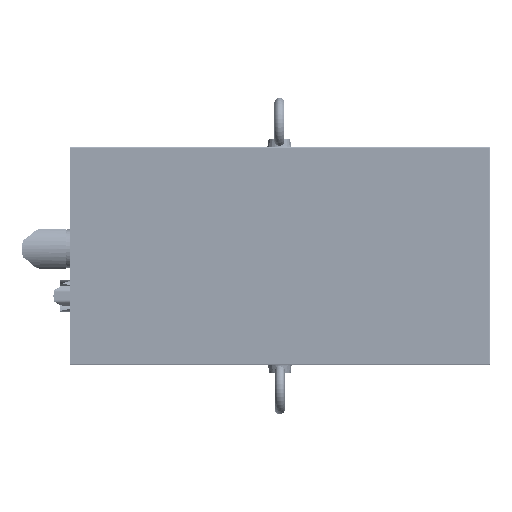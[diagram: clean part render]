
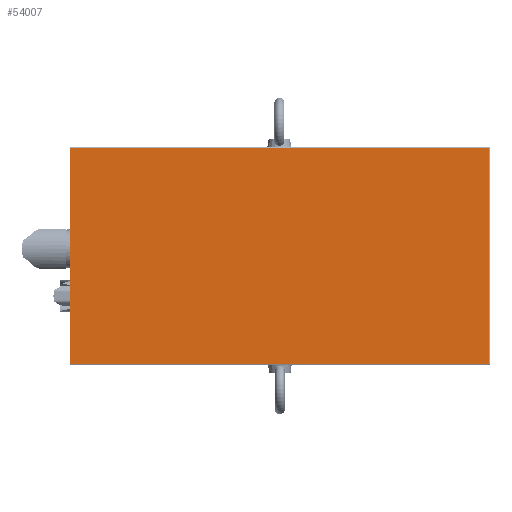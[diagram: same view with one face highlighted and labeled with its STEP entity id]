
A CAD part, top view. The second image highlights one B-rep face of the part: STEP entity #54007.
In plain terms, the highlighted planar face has unit normal (0, 0, 1).
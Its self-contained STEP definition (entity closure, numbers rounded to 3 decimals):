
#53968=CARTESIAN_POINT('',(-72.5,65.,568.));
#53969=DIRECTION('',(0.,1.,0.));
#53970=DIRECTION('',(0.,0.,-1.));
#53971=AXIS2_PLACEMENT_3D('',#53968,#53970,#53969);
#53972=PLANE('',#53971);
#53973=CARTESIAN_POINT('',(-206.5,-69.,568.));
#53974=VERTEX_POINT('',#53973);
#53975=CARTESIAN_POINT('',(-206.5,69.,568.));
#53976=VERTEX_POINT('',#53975);
#53977=CARTESIAN_POINT('',(-206.5,-69.,568.));
#53978=DIRECTION('',(0.,1.,0.));
#53979=VECTOR('',#53978,138.);
#53980=LINE('',#53977,#53979);
#53981=EDGE_CURVE('',#53974,#53976,#53980,.T.);
#53982=ORIENTED_EDGE('E69',*,*,#53981,.T.);
#53983=CARTESIAN_POINT('',(61.5,69.,568.));
#53984=VERTEX_POINT('',#53983);
#53985=CARTESIAN_POINT('',(-206.5,69.,568.));
#53986=DIRECTION('',(1.,0.,0.));
#53987=VECTOR('',#53986,268.);
#53988=LINE('',#53985,#53987);
#53989=EDGE_CURVE('',#53976,#53984,#53988,.T.);
#53990=ORIENTED_EDGE('E74',*,*,#53989,.T.);
#53991=CARTESIAN_POINT('',(61.5,-69.,568.));
#53992=VERTEX_POINT('',#53991);
#53993=CARTESIAN_POINT('',(61.5,69.,568.));
#53994=DIRECTION('',(0.,-1.,0.));
#53995=VECTOR('',#53994,138.);
#53996=LINE('',#53993,#53995);
#53997=EDGE_CURVE('',#53984,#53992,#53996,.T.);
#53998=ORIENTED_EDGE('E76',*,*,#53997,.T.);
#53999=CARTESIAN_POINT('',(61.5,-69.,568.));
#54000=DIRECTION('',(-1.,0.,0.));
#54001=VECTOR('',#54000,268.);
#54002=LINE('',#53999,#54001);
#54003=EDGE_CURVE('',#53992,#53974,#54002,.T.);
#54004=ORIENTED_EDGE('E72',*,*,#54003,.T.);
#54005=EDGE_LOOP('',(#53982,#53990,#53998,#54004));
#54006=FACE_OUTER_BOUND('',#54005,.F.);
#54007=ADVANCED_FACE('F8',(#54006),#53972,.F.);
